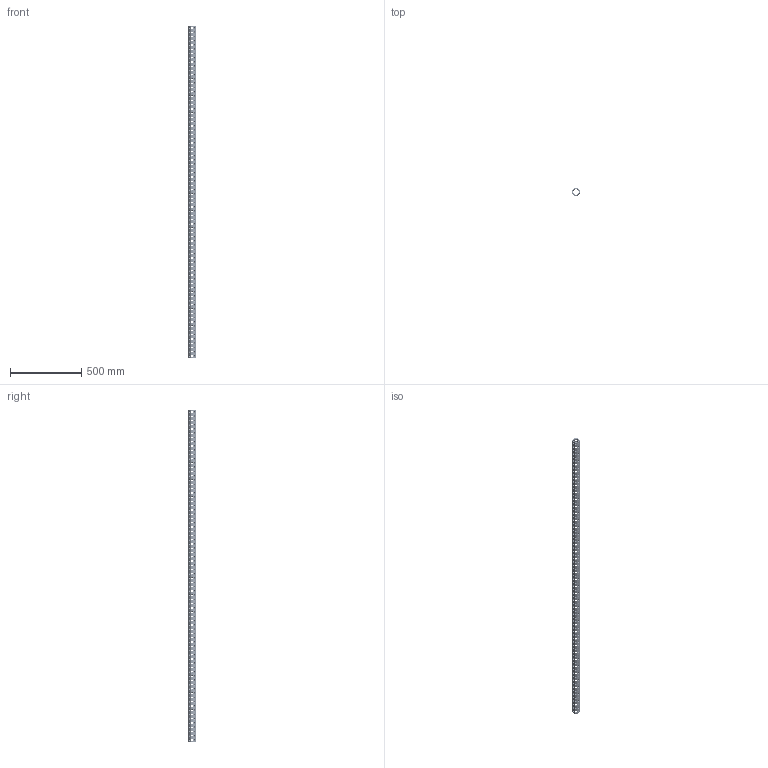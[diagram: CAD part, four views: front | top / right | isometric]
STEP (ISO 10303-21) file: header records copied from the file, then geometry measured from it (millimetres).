
FILE_DESCRIPTION(('CATIA V5 STEP Exchange'),'2;1');
FILE_NAME('U:\Room\唐宝山\EGT002\46-01-010307-01-EGT002-2338.stp','2021-08-24T02:02:45+00:00',('none'),('none'),'CATIA Version 5 Release 21 GA (IN-10)','CATIA V5 STEP AP203','none');
FILE_SCHEMA(('CONFIG_CONTROL_DESIGN'));
Products named in the file (1): 46-01-010307-01-EGT002-2338
Bounding box: 50 x 50 x 2338 mm (x, y, z)
Volume: 1665853.8 mm3; surface area: 802824.2 mm2
Topology: 1 solids, 1 shells, 3204 faces, 8826 edges, 5468 vertices
Faces by surface type: cone 1872, cylinder 1306, plane 26
Entity records: 130798 total; most frequent: CARTESIAN_POINT 53177, ORIENTED_EDGE 17652, DIRECTION 12500, EDGE_CURVE 8826, AXIS2_PLACEMENT_3D 5891, VERTEX_POINT 5468, EDGE_LOOP 4298, VECTOR 3406
